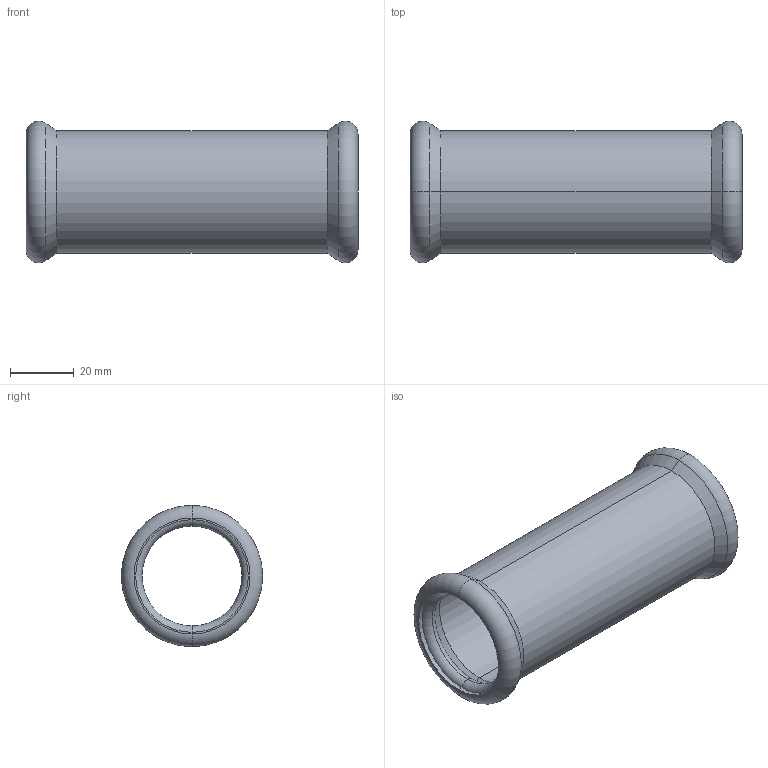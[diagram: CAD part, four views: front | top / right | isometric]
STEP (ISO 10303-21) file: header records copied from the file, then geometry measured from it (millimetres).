
FILE_DESCRIPTION (( 'STEP AP214' ), '1' );
FILE_NAME ('S35000K.STEP', '2025-08-17T07:30:37', ( '' ), ( '' ), 'SwSTEP 2.0', 'SolidWorks 2020', '' );
FILE_SCHEMA (( 'AUTOMOTIVE_DESIGN' ));
Length unit declared in the file: millimetre
Products named in the file (1): S35000K
Bounding box: 104 x 44.28 x 44.28 mm (x, y, z)
Volume: 23750.9 mm3; surface area: 26896.2 mm2
Topology: 1 solids, 1 shells, 32 faces, 64 edges, 36 vertices
Faces by surface type: torus 12, cone 8, cylinder 8, plane 4
Entity records: 1138 total; most frequent: DIRECTION 178, CARTESIAN_POINT 133, ORIENTED_EDGE 128, AXIS2_PLACEMENT_3D 81, EDGE_CURVE 64, CIRCLE 48, VERTEX_POINT 36, EDGE_LOOP 36
